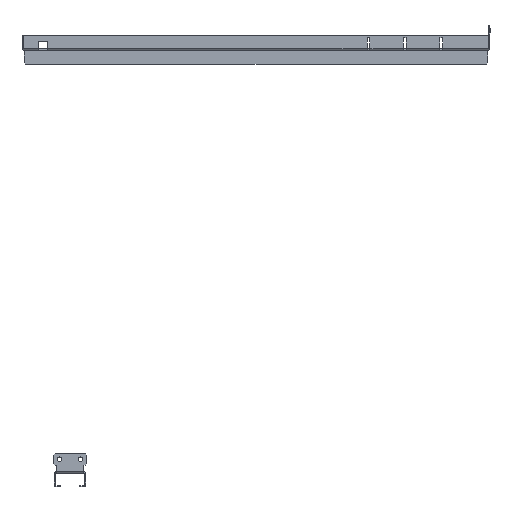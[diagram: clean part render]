
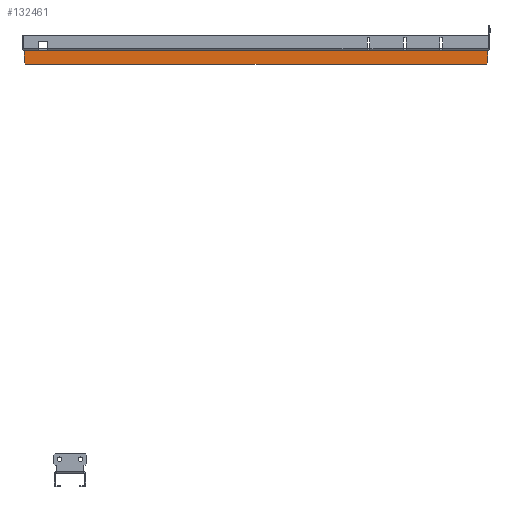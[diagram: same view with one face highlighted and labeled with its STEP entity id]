
A CAD part, front view. The second image highlights one B-rep face of the part: STEP entity #132461.
In plain terms, the highlighted planar face has unit normal (0, -1, 0).
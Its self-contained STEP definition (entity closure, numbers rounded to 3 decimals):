
#65196=CARTESIAN_POINT(' ',(-277.,619.5,-16.));
#65197=VERTEX_POINT(' ',#65196);
#65211=CARTESIAN_POINT(' ',(-277.,619.5,-16.));
#65216=DIRECTION(' ',(0.,0.,1.));
#65221=VECTOR(' ',#65216,1.);
#65226=LINE('',#65211,#65221);
#65231=CARTESIAN_POINT(' ',(-277.,619.5,-2.1));
#65232=VERTEX_POINT(' ',#65231);
#65236=EDGE_CURVE(' ',#65197,#65232,#65226,.T.);
#65421=CARTESIAN_POINT(' ',(-277.,619.5,-2.1));
#65426=DIRECTION(' ',(1.,0.,0.));
#65431=VECTOR(' ',#65426,1.);
#65436=LINE('',#65421,#65431);
#65441=CARTESIAN_POINT(' ',(277.,619.5,-2.1));
#65442=VERTEX_POINT(' ',#65441);
#65446=EDGE_CURVE(' ',#65232,#65442,#65436,.T.);
#65541=CARTESIAN_POINT(' ',(277.,619.5,-2.1));
#65546=DIRECTION(' ',(0.,0.,-1.));
#65551=VECTOR(' ',#65546,1.);
#65556=LINE('',#65541,#65551);
#65561=CARTESIAN_POINT(' ',(277.,619.5,-16.));
#65562=VERTEX_POINT(' ',#65561);
#65566=EDGE_CURVE(' ',#65442,#65562,#65556,.T.);
#132276=CARTESIAN_POINT(' ',(-275.,619.5,-18.));
#132277=VERTEX_POINT(' ',#132276);
#132291=CARTESIAN_POINT(' ',(-277.,619.5,-16.));
#132296=DIRECTION(' ',(0.707,0.,-0.707));
#132301=VECTOR(' ',#132296,1.);
#132306=LINE('',#132291,#132301);
#132311=EDGE_CURVE(' ',#65197,#132277,#132306,.T.);
#132341=DIRECTION(' ',(0.,-1.,0.));
#132346=CARTESIAN_POINT(' ',(-277.,619.5,-2.1));
#132351=DIRECTION(' ',(0.,0.,-1.));
#132356=AXIS2_PLACEMENT_3D(' ',#132346,#132341,#132351);
#132361=PLANE('NONE',#132356);
#132366=ORIENTED_EDGE(' ',*,*,#65236,.F.);
#132371=ORIENTED_EDGE(' ',*,*,#132311,.T.);
#132376=CARTESIAN_POINT(' ',(275.,619.5,-18.));
#132381=DIRECTION(' ',(-1.,0.,0.));
#132386=VECTOR(' ',#132381,1.);
#132391=LINE('',#132376,#132386);
#132396=CARTESIAN_POINT(' ',(275.,619.5,-18.));
#132397=VERTEX_POINT(' ',#132396);
#132401=EDGE_CURVE(' ',#132397,#132277,#132391,.T.);
#132406=ORIENTED_EDGE(' ',*,*,#132401,.F.);
#132411=CARTESIAN_POINT(' ',(275.,619.5,-18.));
#132416=DIRECTION(' ',(0.707,0.,0.707));
#132421=VECTOR(' ',#132416,1.);
#132426=LINE('',#132411,#132421);
#132431=EDGE_CURVE(' ',#132397,#65562,#132426,.T.);
#132436=ORIENTED_EDGE(' ',*,*,#132431,.T.);
#132441=ORIENTED_EDGE(' ',*,*,#65566,.F.);
#132446=ORIENTED_EDGE(' ',*,*,#65446,.F.);
#132451=EDGE_LOOP(' ',(#132366,#132371,#132406,#132436,#132441,#132446));
#132456=FACE_OUTER_BOUND(' ',#132451,.T.);
#132461=ADVANCED_FACE('NONE',(#132456),#132361,.T.);
